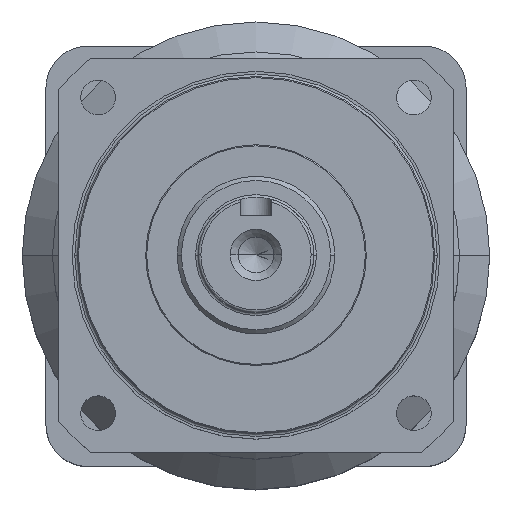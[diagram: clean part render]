
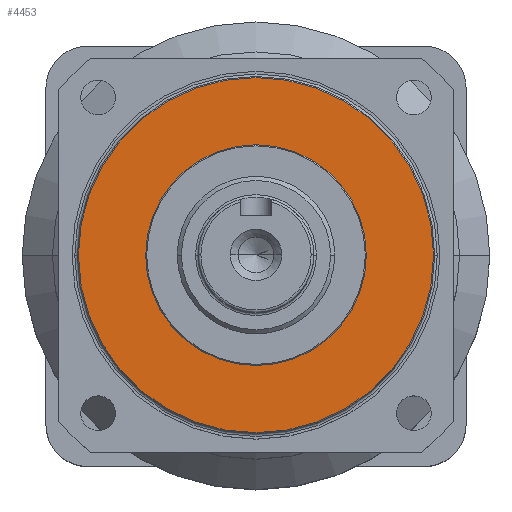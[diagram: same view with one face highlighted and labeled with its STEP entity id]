
A CAD part, top view. The second image highlights one B-rep face of the part: STEP entity #4453.
In plain terms, the highlighted planar face has unit normal (0, 0, 1).
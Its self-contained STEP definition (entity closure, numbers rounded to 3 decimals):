
#43 = VERTEX_POINT ( 'NONE', #2941 ) ;
#60 = CARTESIAN_POINT ( 'NONE',  ( 21., 0., 25. ) ) ;
#97 = CARTESIAN_POINT ( 'NONE',  ( 33.8, 0., 25. ) ) ;
#223 = AXIS2_PLACEMENT_3D ( 'NONE', #2713, #975, #4103 ) ;
#449 = EDGE_LOOP ( 'NONE', ( #1838, #1508 ) ) ;
#486 = CIRCLE ( 'NONE', #3296, 21. ) ;
#565 = DIRECTION ( 'NONE',  ( 1., 0., 0. ) ) ;
#585 = EDGE_LOOP ( 'NONE', ( #2533, #5235 ) ) ;
#616 = DIRECTION ( 'NONE',  ( 1., 0., 0. ) ) ;
#839 = FACE_BOUND ( 'NONE', #585, .T. ) ;
#915 = AXIS2_PLACEMENT_3D ( 'NONE', #3729, #2415, #3711 ) ;
#944 = VERTEX_POINT ( 'NONE', #97 ) ;
#975 = DIRECTION ( 'NONE',  ( 0., 0., 1. ) ) ;
#1070 = EDGE_CURVE ( 'NONE', #3611, #944, #5197, .T. ) ;
#1220 = DIRECTION ( 'NONE',  ( 0., 0., 1. ) ) ;
#1421 = VERTEX_POINT ( 'NONE', #60 ) ;
#1508 = ORIENTED_EDGE ( 'NONE', *, *, #4018, .T. ) ;
#1838 = ORIENTED_EDGE ( 'NONE', *, *, #1070, .T. ) ;
#1920 = DIRECTION ( 'NONE',  ( 0., 0., 1. ) ) ;
#2415 = DIRECTION ( 'NONE',  ( 0., 0., 1. ) ) ;
#2444 = DIRECTION ( 'NONE',  ( 0., 0., 1. ) ) ;
#2533 = ORIENTED_EDGE ( 'NONE', *, *, #2720, .F. ) ;
#2713 = CARTESIAN_POINT ( 'NONE',  ( 0., 0., 25. ) ) ;
#2720 = EDGE_CURVE ( 'NONE', #43, #1421, #486, .T. ) ;
#2941 = CARTESIAN_POINT ( 'NONE',  ( -21., 0., 25. ) ) ;
#2983 = CARTESIAN_POINT ( 'NONE',  ( 0., 0., 25. ) ) ;
#3035 = AXIS2_PLACEMENT_3D ( 'NONE', #4083, #2444, #616 ) ;
#3178 = CARTESIAN_POINT ( 'NONE',  ( 0., 0., 25. ) ) ;
#3194 = PLANE ( 'NONE',  #3035 ) ;
#3296 = AXIS2_PLACEMENT_3D ( 'NONE', #3178, #1920, #565 ) ;
#3343 = DIRECTION ( 'NONE',  ( 1., 0., 0. ) ) ;
#3611 = VERTEX_POINT ( 'NONE', #5208 ) ;
#3616 = CIRCLE ( 'NONE', #223, 21. ) ;
#3711 = DIRECTION ( 'NONE',  ( 1., 0., 0. ) ) ;
#3729 = CARTESIAN_POINT ( 'NONE',  ( 0., 0., 25. ) ) ;
#4018 = EDGE_CURVE ( 'NONE', #944, #3611, #4402, .T. ) ;
#4083 = CARTESIAN_POINT ( 'NONE',  ( 0., 0., 25. ) ) ;
#4103 = DIRECTION ( 'NONE',  ( 1., 0., 0. ) ) ;
#4402 = CIRCLE ( 'NONE', #915, 33.8 ) ;
#4453 = ADVANCED_FACE ( 'NONE', ( #839, #5661 ), #3194, .T. ) ;
#4757 = AXIS2_PLACEMENT_3D ( 'NONE', #2983, #1220, #3343 ) ;
#5197 = CIRCLE ( 'NONE', #4757, 33.8 ) ;
#5208 = CARTESIAN_POINT ( 'NONE',  ( -33.8, 0., 25. ) ) ;
#5235 = ORIENTED_EDGE ( 'NONE', *, *, #5531, .F. ) ;
#5531 = EDGE_CURVE ( 'NONE', #1421, #43, #3616, .T. ) ;
#5661 = FACE_OUTER_BOUND ( 'NONE', #449, .T. ) ;
